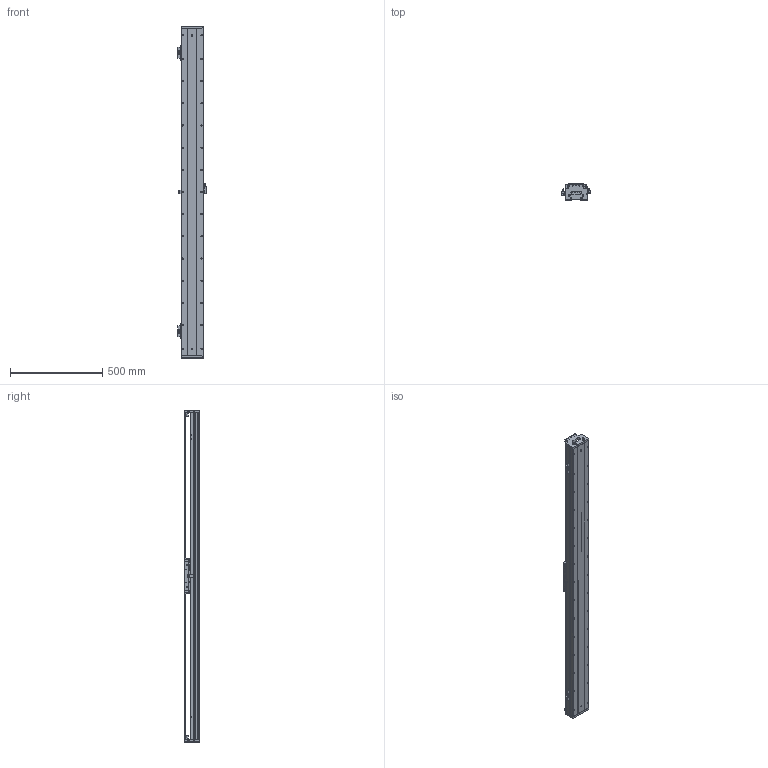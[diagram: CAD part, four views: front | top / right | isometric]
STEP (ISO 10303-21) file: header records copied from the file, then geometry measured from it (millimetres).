
FILE_DESCRIPTION (( 'STEP AP203' ), '1' );
FILE_NAME ('DKW120-B2-W060（T1500-L005-0.2）.STEP', '2021-09-02T06:16:00', ( '微软用户' ), ( '微软中国' ), 'SwSTEP 2.0', 'SolidWorks 2018', '' );
FILE_SCHEMA (( 'CONFIG_CONTROL_DESIGN' ));
Length unit declared in the file: millimetre
Products named in the file (20): B2-W060_00; BKMA01-W060-TRL280; 06652-0001-001-00 DKW120傷啣; DKW120-B2-W060（T1500-L005-0.2）; RUS嫖掑喜; 06652-0001-004-00 DKW120嶺輸菜輸; Ru2; DKW-HXJ-JY-00 遣喳砎蝶; RUS嫖掑郪璃; 10940-0001-004-00 120詩湍裔啣; DKW119-RU-DTJ-00 RU2黍杅芛盓殤; 砎蝶猾沭; 10980-0001-003-00 嫖萇羲壽嘐隅釱; 12160-0000-003-00 DKW120詩湍嶺輸; DKW-SG-GYP-H-00 嫖萇覜茼え; 12160-0000-004-00  DKW120詩湍揤輸; DKW120-B15-T300-DZ-00 菁釱; EE_SX674A; DKW120 单轴模组-拉钢带组件; MSB15-DG-U
Assembly tree (33 placements, depth 3):
  DKW120-B2-W060（T1500-L005-0.2）
    DKW120-B15-T300-DZ-00 菁釱
    MSB15-DG-U  x2
    DKW120 单轴模组-拉钢带组件
      06652-0001-001-00 DKW120傷啣  x2
      06652-0001-004-00 DKW120嶺輸菜輸  x4
      DKW-HXJ-JY-00 遣喳砎蝶  x4
      10940-0001-004-00 120詩湍裔啣
      砎蝶猾沭  x2
      12160-0000-003-00 DKW120詩湍嶺輸  x2
      12160-0000-004-00  DKW120詩湍揤輸  x2
    BKMA01-W060-TRL280
    RUS嫖掑郪璃
      RUS嫖掑喜
      Ru2
    DKW119-RU-DTJ-00 RU2黍杅芛盓殤
    10980-0001-003-00 嫖萇羲壽嘐隅釱  x2
    DKW-SG-GYP-H-00 嫖萇覜茼え
    EE_SX674A  x3
    B2-W060_00
Bounding box: 154.1 x 84 x 1796 mm (x, y, z)
Volume: 6287444.3 mm3; surface area: 2483454.8 mm2
Topology: 41 solids, 90 shells, 4144 faces, 11358 edges, 7313 vertices
Faces by surface type: plane 2215, cylinder 1350, cone 332, bspline 247
Entity records: 133226 total; most frequent: CARTESIAN_POINT 46669, ORIENTED_EDGE 17953, DIRECTION 16636, EDGE_CURVE 9017, VERTEX_POINT 5924, VECTOR 5560, LINE 5560, AXIS2_PLACEMENT_3D 5538
